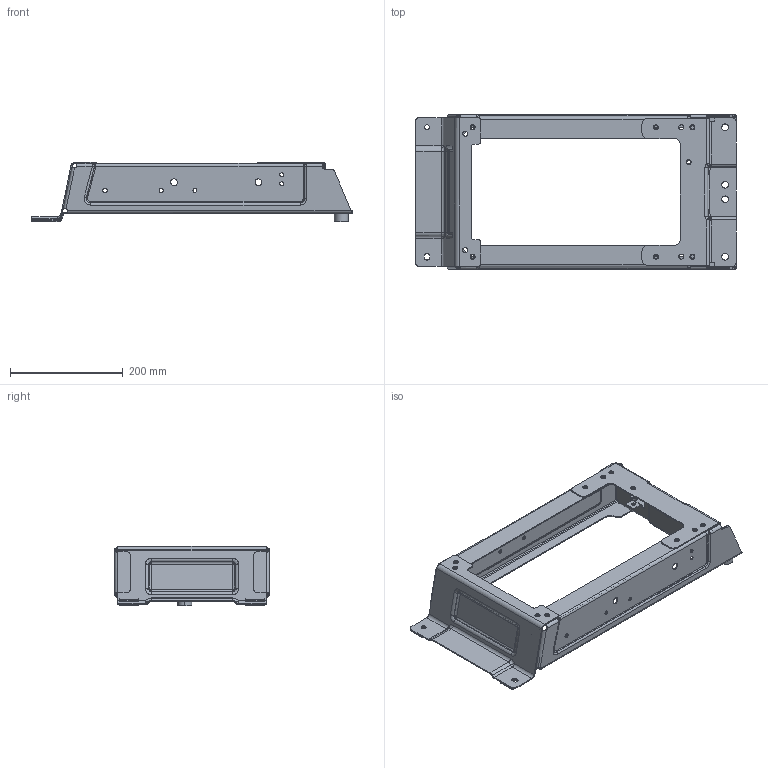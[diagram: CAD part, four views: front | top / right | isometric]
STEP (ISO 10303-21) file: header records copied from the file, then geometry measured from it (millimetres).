
FILE_DESCRIPTION(('CATIA V5 STEP Exchange'),'2;1');
FILE_NAME('F:\福田A6\1-数据\6-冻结数据\第九批\设变\宽车底部支架设变ECR0011068-20241213\SHT0016014-宽车主驾驶底部支架焊接总成\更改后数据-SHT0017824\SHT0016014-宽车主驾驶底部支架焊接总成\SHT0017824-20241219.stp','2024-12-19T12:47:49+00:00',('none'),('none'),'CATIA Version 5 Release 20 GA (IN-10)','CATIA V5 STEP AP203','none');
FILE_SCHEMA(('CONFIG_CONTROL_DESIGN'));
Length unit declared in the file: millimetre
Products named in the file (1): SHT0017824-20241219
Bounding box: 569.84 x 275 x 105.5 mm (x, y, z)
Volume: 525657.7 mm3; surface area: 529523 mm2
Topology: 14 solids, 14 shells, 1113 faces, 3098 edges, 1985 vertices
Faces by surface type: cylinder 459, plane 301, bspline 178, cone 62, torus 57, sphere 48, extrusion 6, revolution 2
Entity records: 40388 total; most frequent: CARTESIAN_POINT 14449, ORIENTED_EDGE 6108, DIRECTION 3931, EDGE_CURVE 3054, VERTEX_POINT 1985, AXIS2_PLACEMENT_3D 1853, VECTOR 1255, EDGE_LOOP 1249
